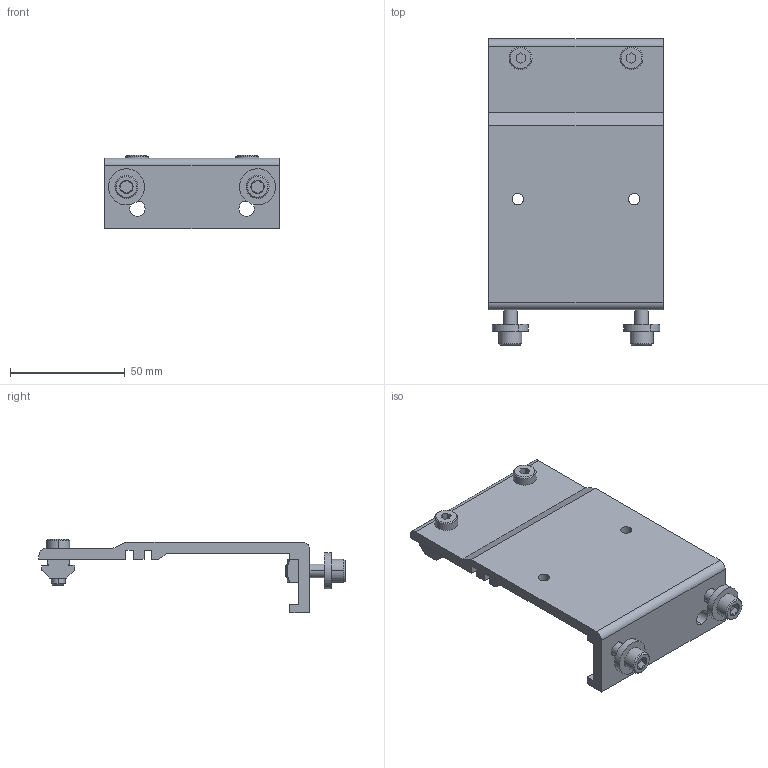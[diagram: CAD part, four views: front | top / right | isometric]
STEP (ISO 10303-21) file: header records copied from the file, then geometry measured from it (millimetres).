
FILE_DESCRIPTION((''),'2;1');
FILE_NAME('240839_ASM','2023-02-27T',('jenni.wallner'),(''),'PRO/ENGINEER BY PARAMETRIC TECHNOLOGY CORPORATION, 2012420','PRO/ENGINEER BY PARAMETRIC TECHNOLOGY CORPORATION, 2012420','');
FILE_SCHEMA(('CONFIG_CONTROL_DESIGN'));
Length unit declared in the file: inch
Products named in the file (8): 2408XX_240831; 605279P; 807-920; 9506XXM_950616M; 9206XXM_920620M; 300150M_300150MSS; ASM0001_ASM; 240839_ASM
Assembly tree (11 placements, depth 3):
  240839_ASM
    ASM0001_ASM
      2408XX_240831
      605279P  x2
      807-920  x2
      9506XXM_950616M  x2
      9206XXM_920620M  x2
      300150M_300150MSS
Bounding box: 76.2 x 133.46 x 32.07 mm (x, y, z)
Volume: 65395.8 mm3; surface area: 33874.5 mm2
Topology: 10 solids, 10 shells, 192 faces, 450 edges, 286 vertices
Faces by surface type: plane 94, cylinder 60, cone 38
Entity records: 4325 total; most frequent: CARTESIAN_POINT 831, DIRECTION 743, ORIENTED_EDGE 650, EDGE_CURVE 325, AXIS2_PLACEMENT_3D 274, VERTEX_POINT 210, VECTOR 195, LINE 195
